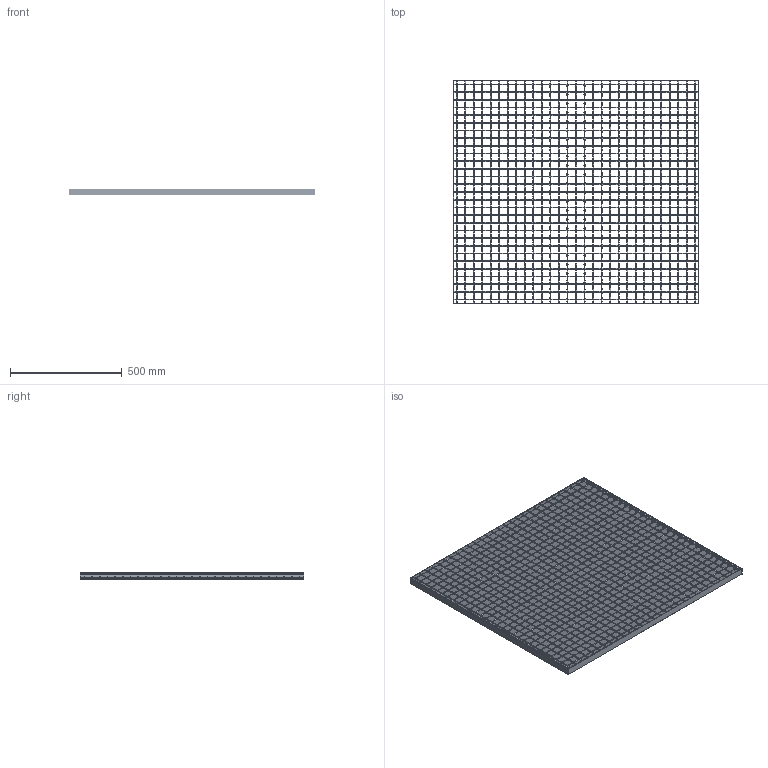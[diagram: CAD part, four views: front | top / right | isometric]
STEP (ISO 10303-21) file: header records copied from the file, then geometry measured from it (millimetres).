
FILE_DESCRIPTION(/* description */ ('STEP AP242','CAx-IF Rec.Pracs.---Representation and Presentation of Product Manufacturing Information (PMI)---4.0---2014-10-13','CAx-IF Rec.Pracs.---3D Tessellated Geometry---0.4---2014-09-14','2;1'),/* implementation_level */ '2;1');
FILE_NAME(/* name */ 'Lichtgitter_Forge_welded_gratings SP 330-34_38-3-1-1-1100-1000_(350_1_0)',/* time_stamp */ '2026-04-23T13:49:18+02:00',/* author */ ('License CC BY-ND 4.0'),/* organization */ ('CADENAS'),/* preprocessor_version */ 'ST-DEVELOPER v20',/* originating_system */ 'PARTsolutions',/* authorisation */ ' ');
FILE_SCHEMA (('AP242_MANAGED_MODEL_BASED_3D_ENGINEERING_MIM_LF { 1 0 10303 442 1 1 4 }'));
Length unit declared in the file: millimetre
Products named in the file (5): Lichtgitter_Forge_welded_gratings SP 330-34/38-3-1-1-1100-1000_(350_1
_0); Lichtgitter SP 330-34/38-3_(350_1_2_1100_1000_Schweisspressroste)_VER
TICAL_SIDES; Lichtgitter SP 330-34/38-3_(350_1_2_1100_1000_Schweisspressroste)_HOR
IZONTAL_C; Lichtgitter SP 330-34/38-3_(350_1_2_1100_1000_Schweisspressroste)_HOR
IZONTAL_SIDES; Lichtgitter SP 3.46530-34/38-3.465_(350_1_2_1100_1000_Schweisspressro
ste)_VERTICAL_C
Assembly tree (62 placements, depth 2):
  Lichtgitter_Forge_welded_gratings SP 330-34/38-3-1-1-1100-1000_(350_1
_0)
    Lichtgitter SP 330-34/38-3_(350_1_2_1100_1000_Schweisspressroste)_VER
TICAL_SIDES  x2
    Lichtgitter SP 330-34/38-3_(350_1_2_1100_1000_Schweisspressroste)_HOR
IZONTAL_C  x29
    Lichtgitter SP 330-34/38-3_(350_1_2_1100_1000_Schweisspressroste)_HOR
IZONTAL_SIDES  x2
    Lichtgitter SP 3.46530-34/38-3.465_(350_1_2_1100_1000_Schweisspressro
ste)_VERTICAL_C  x29
Bounding box: 1100 x 1000 x 30.72 mm (x, y, z)
Volume: 3497048.3 mm3; surface area: 2753015.4 mm2
Topology: 62 solids, 62 shells, 7762 faces, 17230 edges, 9592 vertices
Faces by surface type: bspline 5800, plane 1105, cylinder 857
Entity records: 9087 total; most frequent: CARTESIAN_POINT 2783, ORIENTED_EDGE 1300, DIRECTION 1026, EDGE_CURVE 650, LINE 572, VECTOR 572, VERTEX_POINT 368, EDGE_LOOP 290
